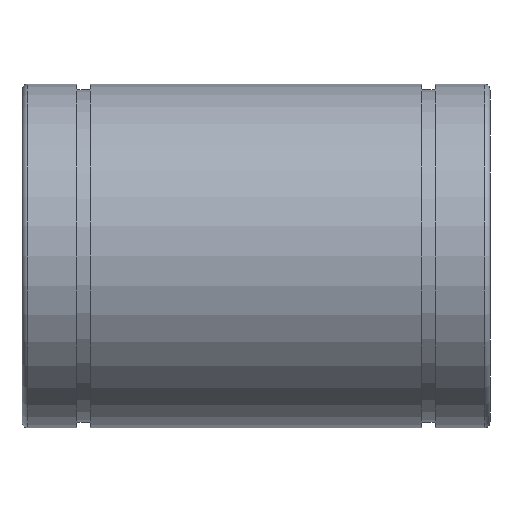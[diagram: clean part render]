
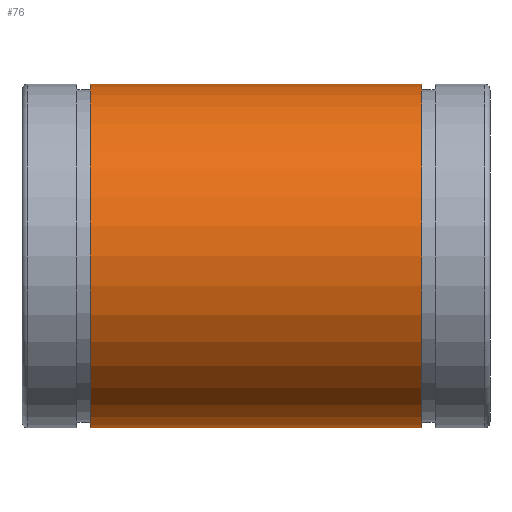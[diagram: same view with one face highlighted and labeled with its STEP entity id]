
A CAD part, front view. The second image highlights one B-rep face of the part: STEP entity #76.
In plain terms, the highlighted cylindrical face has radius 23.5 mm (diameter 47 mm), a full revolution.
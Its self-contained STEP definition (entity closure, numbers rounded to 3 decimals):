
#76=ADVANCED_FACE('',(#93,#94),#95,.T.);
#93=FACE_OUTER_BOUND('',#135,.T.);
#94=FACE_OUTER_BOUND('',#136,.T.);
#95=CYLINDRICAL_SURFACE('',#137,23.5);
#135=EDGE_LOOP('',(#179));
#136=EDGE_LOOP('',(#180));
#137=AXIS2_PLACEMENT_3D('',#181,#182,#183);
#179=ORIENTED_EDGE('',*,*,#246,.F.);
#180=ORIENTED_EDGE('',*,*,#247,.F.);
#181=CARTESIAN_POINT('',(0.,0.0,0.0));
#182=DIRECTION('',(1.0,-0.0,-0.0));
#183=DIRECTION('',(0.0,1.0,0.0));
#246=EDGE_CURVE('',#262,#262,#263,.T.);
#247=EDGE_CURVE('',#264,#264,#265,.T.);
#262=VERTEX_POINT('',#290);
#263=CIRCLE('',#291,23.5);
#264=VERTEX_POINT('',#292);
#265=CIRCLE('',#293,23.5);
#290=CARTESIAN_POINT('',(-22.65,-23.5,0.0));
#291=AXIS2_PLACEMENT_3D('',#320,#321,#322);
#292=CARTESIAN_POINT('',(22.65,23.5,0.0));
#293=AXIS2_PLACEMENT_3D('',#323,#324,#325);
#320=CARTESIAN_POINT('',(-22.65,0.0,0.0));
#321=DIRECTION('',(-1.0,0.0,0.0));
#322=DIRECTION('',(0.0,-1.0,0.0));
#323=CARTESIAN_POINT('',(22.65,0.0,0.0));
#324=DIRECTION('',(1.0,0.0,0.0));
#325=DIRECTION('',(0.0,1.0,0.0));
